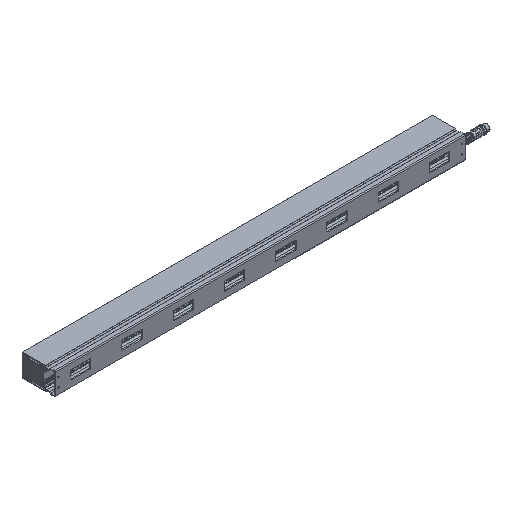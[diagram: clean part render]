
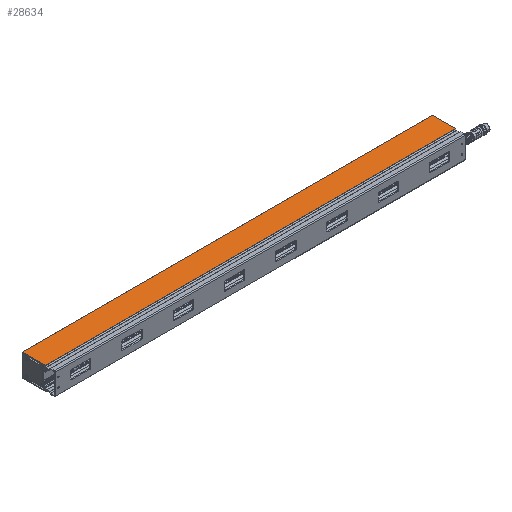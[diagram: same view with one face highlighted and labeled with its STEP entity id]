
A CAD part, isometric view. The second image highlights one B-rep face of the part: STEP entity #28634.
In plain terms, the highlighted planar face has unit normal (0, 0, 1).
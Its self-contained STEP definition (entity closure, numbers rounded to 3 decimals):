
#683 = FACE_OUTER_BOUND ( 'NONE', #61518, .T. ) ;
#1376 = DIRECTION ( 'NONE',  ( 0., 1., 0. ) ) ;
#2768 = DIRECTION ( 'NONE',  ( -1., 0., 0. ) ) ;
#6089 = EDGE_CURVE ( 'NONE', #51597, #69582, #11368, .T. ) ;
#8037 = LINE ( 'NONE', #32866, #9146 ) ;
#9146 = VECTOR ( 'NONE', #1376, 1000. ) ;
#9825 = EDGE_CURVE ( 'NONE', #51597, #81758, #42430, .T. ) ;
#10441 = CARTESIAN_POINT ( 'NONE',  ( 500., 23.914, 27.5 ) ) ;
#11368 = LINE ( 'NONE', #81194, #64061 ) ;
#12741 = ORIENTED_EDGE ( 'NONE', *, *, #63764, .T. ) ;
#15358 = DIRECTION ( 'NONE',  ( 0., 0., 1. ) ) ;
#17977 = CARTESIAN_POINT ( 'NONE',  ( 500., 80.4, 27.5 ) ) ;
#20010 = PLANE ( 'NONE',  #33230 ) ;
#28634 = ADVANCED_FACE ( 'NONE', ( #683 ), #20010, .T. ) ;
#30207 = DIRECTION ( 'NONE',  ( 0., 1., 0. ) ) ;
#31597 = EDGE_CURVE ( 'NONE', #69582, #60532, #8037, .T. ) ;
#32866 = CARTESIAN_POINT ( 'NONE',  ( -500., 23.914, 27.5 ) ) ;
#33230 = AXIS2_PLACEMENT_3D ( 'NONE', #45602, #15358, #2768 ) ;
#42430 = LINE ( 'NONE', #10441, #71667 ) ;
#45602 = CARTESIAN_POINT ( 'NONE',  ( 500., 23.914, 27.5 ) ) ;
#50177 = CARTESIAN_POINT ( 'NONE',  ( 500., 80.4, 27.5 ) ) ;
#51597 = VERTEX_POINT ( 'NONE', #71649 ) ;
#55550 = CARTESIAN_POINT ( 'NONE',  ( -500., 80.4, 27.5 ) ) ;
#59395 = VECTOR ( 'NONE', #81832, 1000. ) ;
#60532 = VERTEX_POINT ( 'NONE', #55550 ) ;
#61518 = EDGE_LOOP ( 'NONE', ( #12741, #65300, #62411, #62985 ) ) ;
#62411 = ORIENTED_EDGE ( 'NONE', *, *, #6089, .F. ) ;
#62985 = ORIENTED_EDGE ( 'NONE', *, *, #9825, .T. ) ;
#63764 = EDGE_CURVE ( 'NONE', #81758, #60532, #81011, .T. ) ;
#64061 = VECTOR ( 'NONE', #74921, 1000. ) ;
#65300 = ORIENTED_EDGE ( 'NONE', *, *, #31597, .F. ) ;
#69582 = VERTEX_POINT ( 'NONE', #75343 ) ;
#71649 = CARTESIAN_POINT ( 'NONE',  ( 500., 23.914, 27.5 ) ) ;
#71667 = VECTOR ( 'NONE', #30207, 1000. ) ;
#74921 = DIRECTION ( 'NONE',  ( -1., 0., 0. ) ) ;
#75343 = CARTESIAN_POINT ( 'NONE',  ( -500., 23.914, 27.5 ) ) ;
#81011 = LINE ( 'NONE', #17977, #59395 ) ;
#81194 = CARTESIAN_POINT ( 'NONE',  ( 500., 23.914, 27.5 ) ) ;
#81758 = VERTEX_POINT ( 'NONE', #50177 ) ;
#81832 = DIRECTION ( 'NONE',  ( -1., 0., 0. ) ) ;
